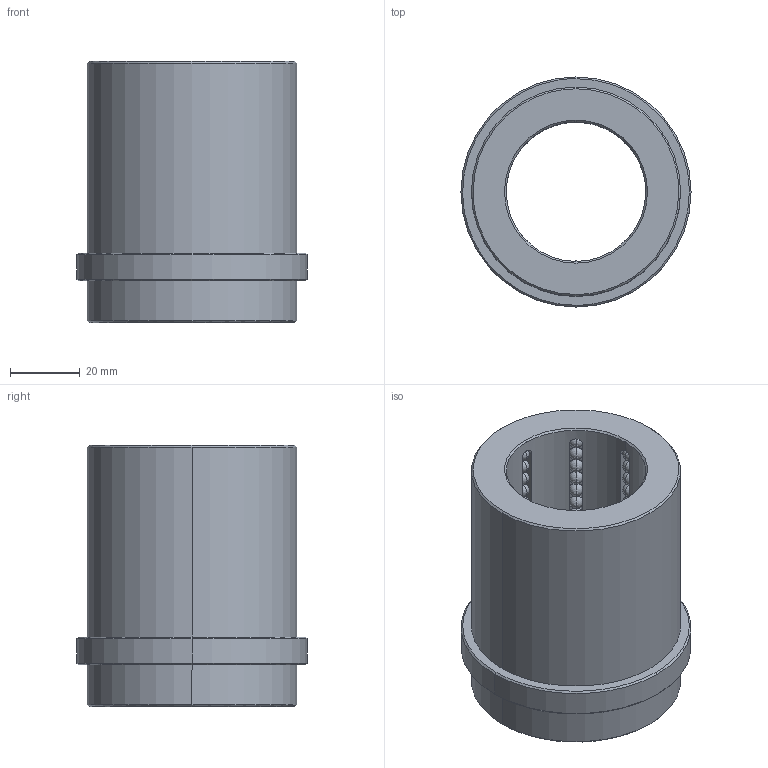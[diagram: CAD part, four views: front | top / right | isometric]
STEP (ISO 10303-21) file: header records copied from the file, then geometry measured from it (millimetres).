
FILE_DESCRIPTION(('CATIA V5 STEP Exchange'),'2;1');
FILE_NAME('C:\Users\Raffaele\Desktop\3D BOLEX\3D FILES CF BOLEX\2-BUSH REF 802\B8024063.stp','2019-06-19T13:53:15+00:00',('none'),('none'),'CATIA Version 5 Release 20 GA (IN-10)','CATIA V5 STEP AP203','none');
FILE_SCHEMA(('CONFIG_CONTROL_DESIGN'));
Length unit declared in the file: millimetre
Products named in the file (1): B8024063
Bounding box: 66 x 66 x 75 mm (x, y, z)
Volume: 118407.3 mm3; surface area: 38587.5 mm2
Topology: 129 solids, 129 shells, 588 faces, 1722 edges, 376 vertices
Faces by surface type: sphere 512, plane 28, cylinder 24, cone 24
Entity records: 11115 total; most frequent: CARTESIAN_POINT 2198, DIRECTION 1830, ORIENTED_EDGE 1396, AXIS2_PLACEMENT_3D 1145, EDGE_CURVE 698, EDGE_LOOP 598, ADVANCED_FACE 588, FACE_OUTER_BOUND 588
